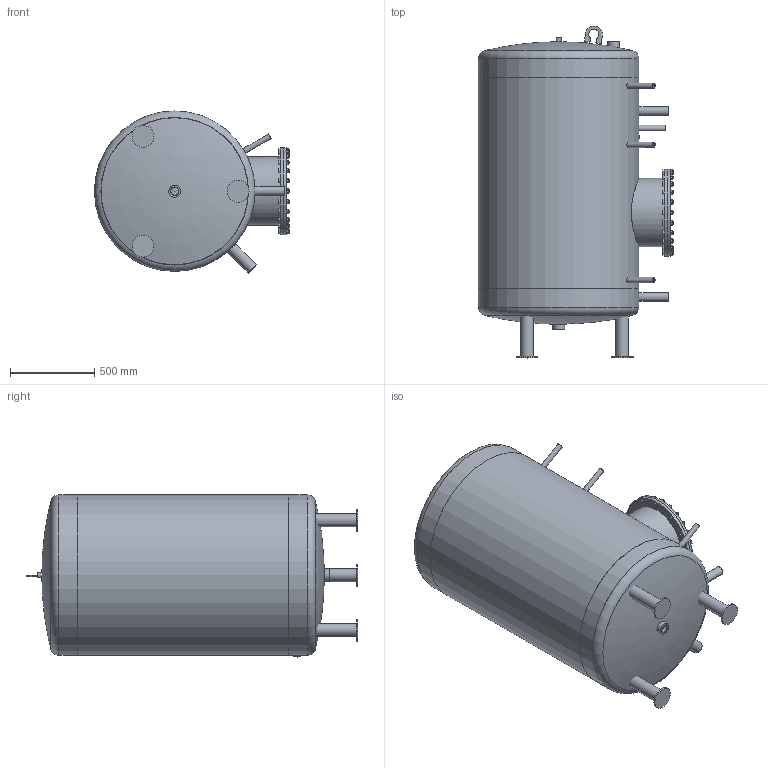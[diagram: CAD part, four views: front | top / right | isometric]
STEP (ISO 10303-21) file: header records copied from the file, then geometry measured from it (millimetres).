
FILE_DESCRIPTION(/* description */ (''),/* implementation_level */ '2;1');
FILE_NAME(/* name */ '1000L-GE.stp',/* time_stamp */ '2024-11-05T08:24:49+01:00',/* author */ ('vha'),/* organization */ (''),/* preprocessor_version */ 'ST-DEVELOPER v20',/* originating_system */ 'Autodesk Inventor 2025',/* authorisation */ '');
FILE_SCHEMA (('AUTOMOTIVE_DESIGN { 1 0 10303 214 3 1 1 }'));
Length unit declared in the file: millimetre
Products named in the file (16): 1000L-GE; 20110T16 1000L; 20110T17; 20110T09; 20110T14 1000L; 20110T12; 20110T13; 20110T02; 20110T03; 20110T01; 20110T07; 20110T04; 20110T18 3 tommer; 20110T19 3 tommer; M16 Møtrik; M16 Bolt
Assembly tree (72 placements, depth 2):
  1000L-GE
    20110T16 1000L
    20110T17
    20110T09
    20110T14 1000L  x2
    20110T02  x4
    20110T12
    20110T13
    20110T03  x2
    20110T01
    20110T07  x3
    20110T04
    20110T18 3 tommer  x3
    20110T19 3 tommer  x3
    M16 Møtrik  x24
    M16 Bolt  x24
Bounding box: 1155 x 1964.24 x 959.51 mm (x, y, z)
Volume: 48717447.1 mm3; surface area: 14196626.9 mm2
Topology: 72 solids, 72 shells, 652 faces, 1441 edges, 956 vertices
Faces by surface type: plane 460, cylinder 148, cone 36, bspline 4, torus 4
Full cylindrical faces by diameter (mm): 10.667 x4, 16 x48, 16.339 x1, 20 x48, 28.136 x3, 31.7 x4, 33.8 x1, 46.153 x3, 51.2 x3, 70.4 x3, 73 x3, 76.2 x3, 130 x3, 350 x2, 400 x1, 406 x1, 515 x2, 936.8 x3, 950 x3
Entity records: 5561 total; most frequent: CARTESIAN_POINT 1002, DIRECTION 948, ORIENTED_EDGE 642, AXIS2_PLACEMENT_3D 403, EDGE_CURVE 321, EDGE_LOOP 260, VERTEX_POINT 213, CIRCLE 176
